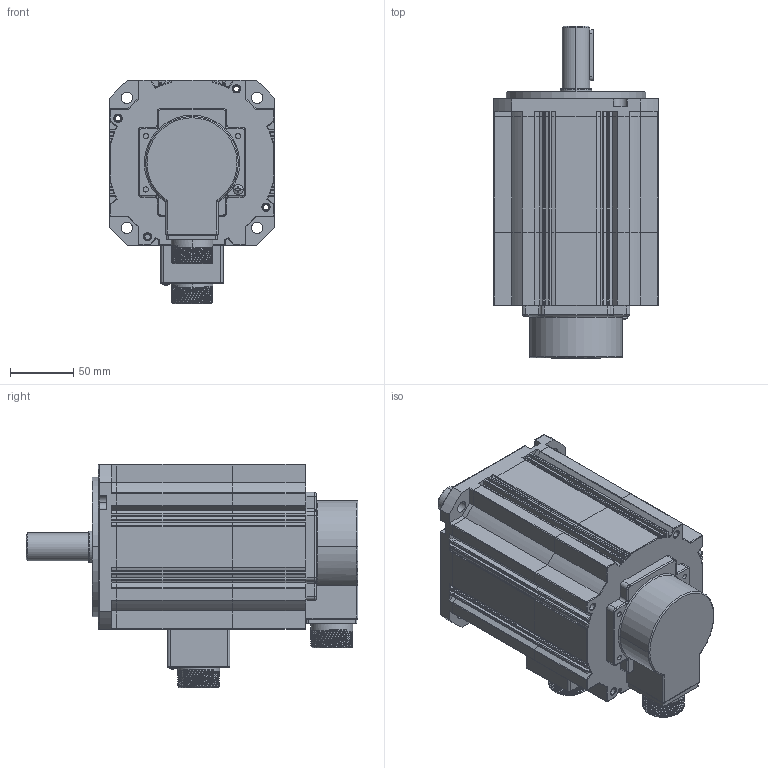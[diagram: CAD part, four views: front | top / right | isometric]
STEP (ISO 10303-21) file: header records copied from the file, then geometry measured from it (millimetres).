
FILE_DESCRIPTION (( 'STEP AP203' ), '1' );
FILE_NAME ('BMR-G17B13020-´ø±§Õ¢.STEP', '2024-03-12T02:08:36', ( '' ), ( '' ), 'SwSTEP 2.0', 'SolidWorks 2018', '' );
FILE_SCHEMA (( 'CONFIG_CONTROL_DESIGN' ));
Length unit declared in the file: millimetre
Products named in the file (17): 粣; cross recessed pan head screws gb_GB_CROSS_SCREWS_TYPE1 M3X12-12  H type-N; 惕掅綴傷裔; 瑤脣裔; BMR-G17B13020-湍惕掅; 蛌赽軞傖; ヶ傷裔; 晤鎢ん; deep groove ball bearings gb_Rolling bearings 6204 GB 276-94; 晤鎢欶裔; 瑤脣窒煦; 盓傅啣; jike; 脣釱1; cross recessed pan head screws gb_GB_CROSS_SCREWS_TYPE1 M4X12-12  H type-N; hexagon socket head cap screws gb_GB_FASTENER_SCREWS_HSHCS M5X20-N; deep groove ball bearings gb_Rolling bearings 6205 GB 276-94
Assembly tree (20 placements, depth 3):
  BMR-G17B13020-湍惕掅
    jike
    瑤脣窒煦
      瑤脣裔
      脣釱1
      盓傅啣
    ヶ傷裔
    晤鎢欶裔
    脣釱1
    hexagon socket head cap screws gb_GB_FASTENER_SCREWS_HSHCS M5X20-N
    cross recessed pan head screws gb_GB_CROSS_SCREWS_TYPE1 M4X12-12  H type-N
    cross recessed pan head screws gb_GB_CROSS_SCREWS_TYPE1 M3X12-12  H type-N  x2
    晤鎢ん
    蛌赽軞傖
      粣
      deep groove ball bearings gb_Rolling bearings 6205 GB 276-94  x2
      deep groove ball bearings gb_Rolling bearings 6204 GB 276-94  x2
    惕掅綴傷裔
Bounding box: 130 x 261.5 x 176 mm (x, y, z)
Volume: 1149242.1 mm3; surface area: 414437.7 mm2
Topology: 18 solids, 18 shells, 2187 faces, 6502 edges, 4109 vertices
Faces by surface type: cylinder 899, plane 561, torus 369, sphere 224, bspline 114, cone 20
Entity records: 69126 total; most frequent: CARTESIAN_POINT 20928, ORIENTED_EDGE 9934, DIRECTION 9751, EDGE_CURVE 4967, AXIS2_PLACEMENT_3D 3887, VERTEX_POINT 3123, CIRCLE 2093, EDGE_LOOP 2038
